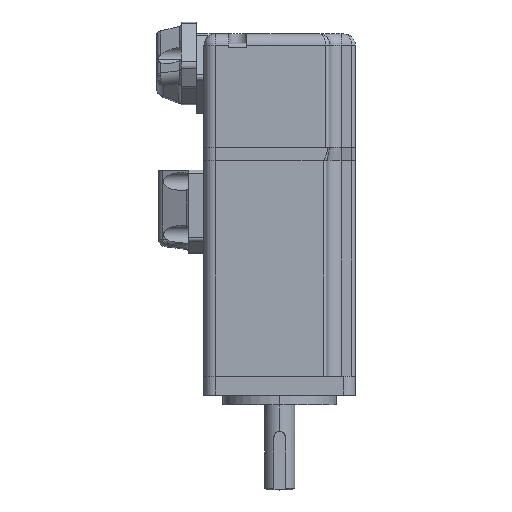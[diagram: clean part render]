
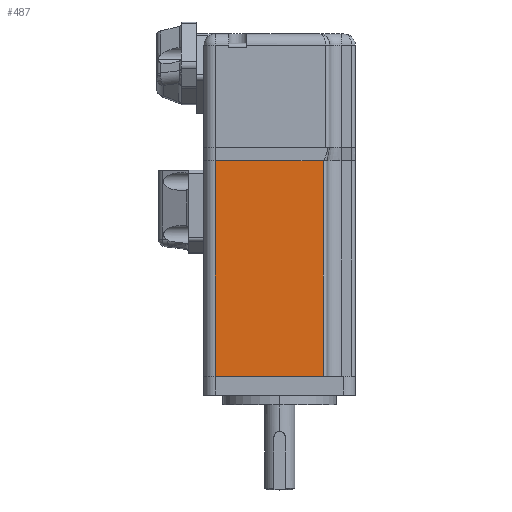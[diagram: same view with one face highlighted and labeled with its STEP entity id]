
A CAD part, top view. The second image highlights one B-rep face of the part: STEP entity #487.
In plain terms, the highlighted planar face has unit normal (0, 0, 1).
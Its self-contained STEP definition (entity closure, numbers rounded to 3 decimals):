
#58 = VERTEX_POINT ( 'NONE', #10621 ) ;
#64 = EDGE_LOOP ( 'NONE', ( #5560, #11205, #7252, #3410 ) ) ;
#487 = ADVANCED_FACE ( 'NONE', ( #8363 ), #7148, .F. ) ;
#1018 = DIRECTION ( 'NONE',  ( -1., 0., 0. ) ) ;
#1582 = LINE ( 'NONE', #4254, #2838 ) ;
#1624 = CARTESIAN_POINT ( 'NONE',  ( 6.558, -32.779, 77. ) ) ;
#2589 = CARTESIAN_POINT ( 'NONE',  ( -21.942, 24.221, 77. ) ) ;
#2838 = VECTOR ( 'NONE', #11583, 1000. ) ;
#3236 = VERTEX_POINT ( 'NONE', #10682 ) ;
#3410 = ORIENTED_EDGE ( 'NONE', *, *, #6708, .T. ) ;
#4254 = CARTESIAN_POINT ( 'NONE',  ( 6.558, 24.221, 77. ) ) ;
#4460 = CARTESIAN_POINT ( 'NONE',  ( -21.942, 24.221, 77. ) ) ;
#4812 = CARTESIAN_POINT ( 'NONE',  ( -21.942, 24.221, 77. ) ) ;
#4843 = CARTESIAN_POINT ( 'NONE',  ( -21.942, -32.779, 77. ) ) ;
#5261 = DIRECTION ( 'NONE',  ( 0., -1., 0. ) ) ;
#5453 = DIRECTION ( 'NONE',  ( 0., 0., -1. ) ) ;
#5560 = ORIENTED_EDGE ( 'NONE', *, *, #6296, .T. ) ;
#5610 = EDGE_CURVE ( 'NONE', #6902, #58, #6232, .T. ) ;
#5939 = EDGE_CURVE ( 'NONE', #58, #7240, #1582, .T. ) ;
#6072 = VECTOR ( 'NONE', #11185, 1000. ) ;
#6232 = LINE ( 'NONE', #2589, #6374 ) ;
#6296 = EDGE_CURVE ( 'NONE', #3236, #7240, #6353, .T. ) ;
#6353 = LINE ( 'NONE', #4843, #6072 ) ;
#6374 = VECTOR ( 'NONE', #11513, 1000. ) ;
#6708 = EDGE_CURVE ( 'NONE', #6902, #3236, #8448, .T. ) ;
#6902 = VERTEX_POINT ( 'NONE', #4812 ) ;
#7148 = PLANE ( 'NONE',  #8113 ) ;
#7240 = VERTEX_POINT ( 'NONE', #1624 ) ;
#7252 = ORIENTED_EDGE ( 'NONE', *, *, #5610, .F. ) ;
#8113 = AXIS2_PLACEMENT_3D ( 'NONE', #4460, #5453, #1018 ) ;
#8363 = FACE_OUTER_BOUND ( 'NONE', #64, .T. ) ;
#8448 = LINE ( 'NONE', #10700, #10982 ) ;
#10621 = CARTESIAN_POINT ( 'NONE',  ( 6.558, 24.221, 77. ) ) ;
#10682 = CARTESIAN_POINT ( 'NONE',  ( -21.942, -32.779, 77. ) ) ;
#10700 = CARTESIAN_POINT ( 'NONE',  ( -21.942, 24.221, 77. ) ) ;
#10982 = VECTOR ( 'NONE', #5261, 1000. ) ;
#11185 = DIRECTION ( 'NONE',  ( 1., 0., 0. ) ) ;
#11205 = ORIENTED_EDGE ( 'NONE', *, *, #5939, .F. ) ;
#11513 = DIRECTION ( 'NONE',  ( 1., 0., 0. ) ) ;
#11583 = DIRECTION ( 'NONE',  ( 0., -1., 0. ) ) ;
